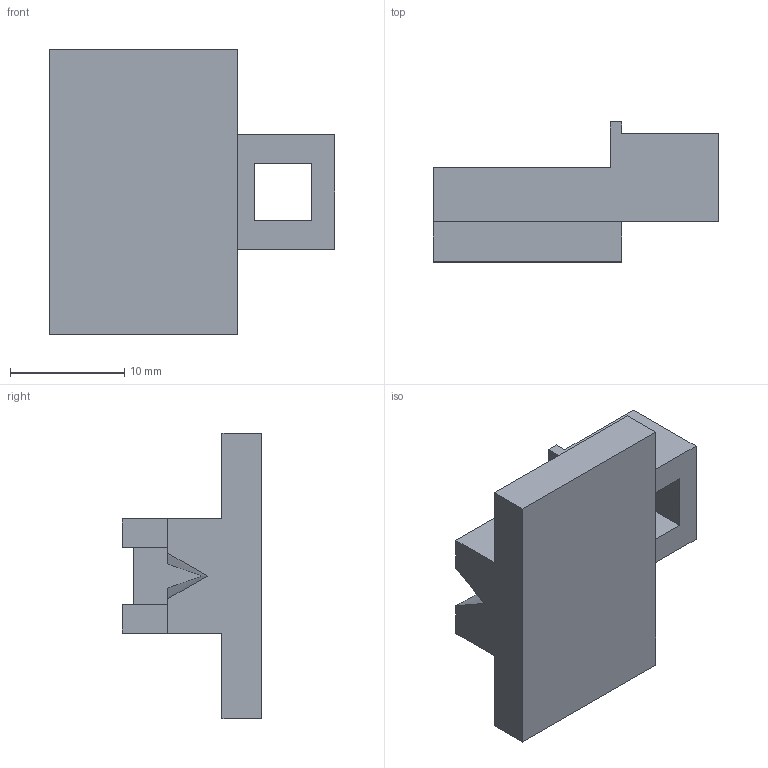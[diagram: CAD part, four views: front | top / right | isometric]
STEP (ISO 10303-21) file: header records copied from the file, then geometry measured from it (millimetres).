
FILE_DESCRIPTION (( 'STEP AP203' ), '1' );
FILE_NAME ('Standard Fish Fixture.STEP', '2026-08-06T16:30:54', ( '' ), ( '' ), 'SwSTEP 2.0', 'SolidWorks 2025', '' );
FILE_SCHEMA (( 'CONFIG_CONTROL_DESIGN' ));
Length unit declared in the file: millimetre
Products named in the file (3): fish fixture RevB; Standard Fish Fixture; LMPagar_proto RS
Assembly tree (2 placements, depth 3):
  Standard Fish Fixture
    fish fixture RevB
      LMPagar_proto RS
Bounding box: 25 x 12.25 x 25 mm (x, y, z)
Volume: 2415.1 mm3; surface area: 2006.3 mm2
Topology: 1 solids, 1 shells, 32 faces, 85 edges, 56 vertices
Faces by surface type: plane 26, cylinder 4, bspline 2
Entity records: 1310 total; most frequent: CARTESIAN_POINT 211, ORIENTED_EDGE 170, DIRECTION 160, EDGE_CURVE 85, VECTOR 72, LINE 72, VERTEX_POINT 56, AXIS2_PLACEMENT_3D 44
